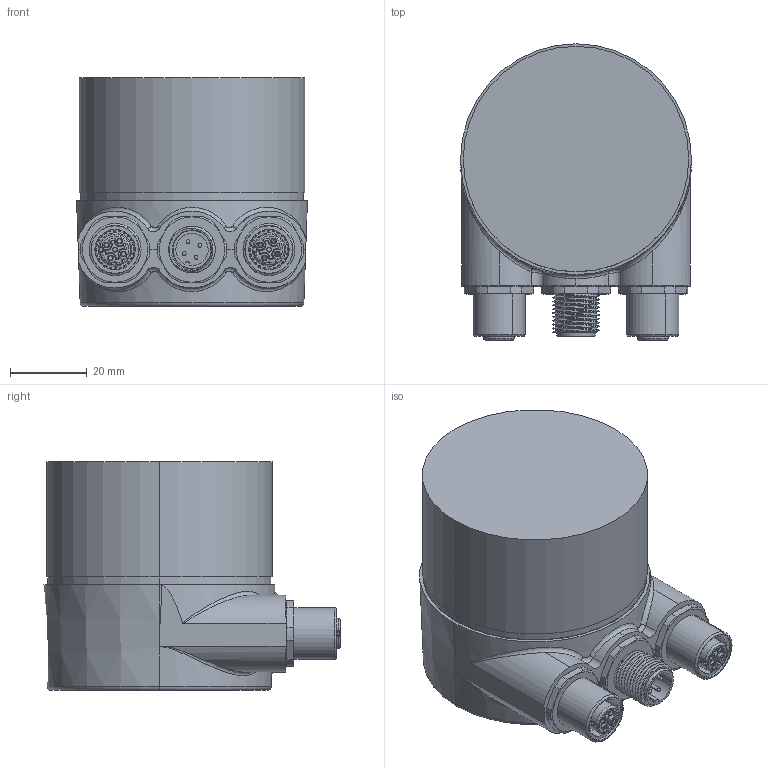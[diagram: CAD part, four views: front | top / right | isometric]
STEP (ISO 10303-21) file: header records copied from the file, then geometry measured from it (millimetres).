
FILE_DESCRIPTION (( 'STEP AP203' ), '1' );
FILE_NAME ('Drawing-OC-5-EI-595-SZM-EIREIR-Y-PRM-N.STEP', '2013-09-26T10:52:39', ( 'Admin' ), ( 'Microsoft' ), 'SwSTEP 2.0', 'SolidWorks 2006104', '' );
FILE_SCHEMA (( 'CONFIG_CONTROL_DESIGN' ));
Length unit declared in the file: millimetre
Products named in the file (1): Drawing-OC-5-EI-595-SZM-EIREIR-Y-PRM-N
Bounding box: 60 x 77 x 59.5 mm (x, y, z)
Volume: 52082.3 mm3; surface area: 50680 mm2
Topology: 14 solids, 14 shells, 1289 faces, 3349 edges, 2161 vertices
Faces by surface type: cylinder 611, plane 315, cone 209, bspline 97, torus 53, sphere 4
Entity records: 68024 total; most frequent: CARTESIAN_POINT 37458, ORIENTED_EDGE 6666, DIRECTION 6088, EDGE_CURVE 3333, AXIS2_PLACEMENT_3D 2450, VERTEX_POINT 2153, EDGE_LOOP 1424, ADVANCED_FACE 1289
